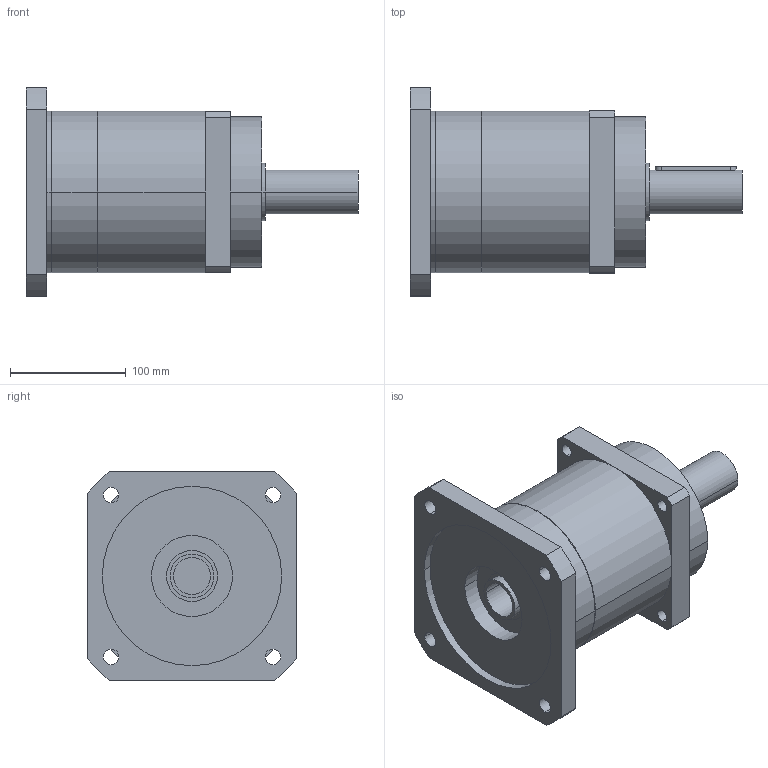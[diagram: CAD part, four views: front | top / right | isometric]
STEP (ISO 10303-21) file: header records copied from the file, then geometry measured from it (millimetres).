
FILE_DESCRIPTION(('CoCreate Modeling STEP Export'),'2;1');
FILE_NAME('GPR150_ig-3-4-5-7_38_B5_32_P11.stp','2014-08-19T16:43:02',(''),(''),'CoCreate Modeling STEP processor for AP214 (Solid Model)','CoCreate Modeling 16.00C 25-Feb-2009 (C) Parametric Technology GmbH','');
FILE_SCHEMA(('AUTOMOTIVE_DESIGN { 1 0 10303 214 1 1 1 1 }'));
Length unit declared in the file: millimetre
Products named in the file (2): GPR150_ig-3-4-5-7_38_B5_32_P11
Assembly tree (1 placements, depth 2):
  GPR150_ig-3-4-5-7_38_B5_32_P11
    GPR150_ig-3-4-5-7_38_B5_32_P11
Bounding box: 287 x 180 x 180 mm (x, y, z)
Volume: 3304947.9 mm3; surface area: 198301.2 mm2
Topology: 1 solids, 1 shells, 84 faces, 227 edges, 155 vertices
Faces by surface type: cylinder 50, plane 28, cone 6
Entity records: 2395 total; most frequent: ORIENTED_EDGE 450, CARTESIAN_POINT 442, DIRECTION 340, EDGE_CURVE 225, VERTEX_POINT 155, AXIS2_PLACEMENT_3D 125, EDGE_LOOP 112, VECTOR 90
